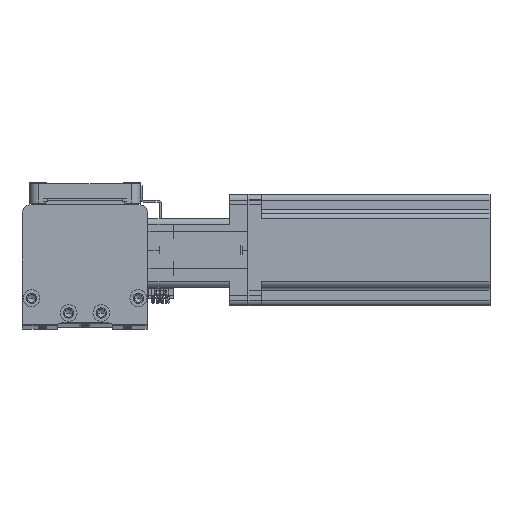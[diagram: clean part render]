
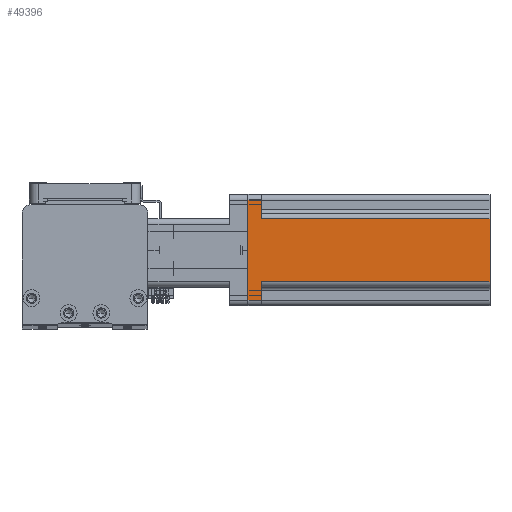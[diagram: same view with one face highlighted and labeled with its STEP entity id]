
A CAD part, top view. The second image highlights one B-rep face of the part: STEP entity #49396.
In plain terms, the highlighted planar face has unit normal (0, 0, 1) as drawn and (1, 0, 0) by its records, which use the part's own axes.
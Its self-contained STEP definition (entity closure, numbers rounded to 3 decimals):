
#404 = CARTESIAN_POINT ( 'NONE',  ( 30., -17., 7.5 ) ) ;
#1085 = EDGE_CURVE ( 'NONE', #20967, #25114, #41527, .T. ) ;
#2206 = FACE_OUTER_BOUND ( 'NONE', #41424, .T. ) ;
#2849 = EDGE_CURVE ( 'NONE', #14496, #20416, #21416, .T. ) ;
#2960 = DIRECTION ( 'NONE',  ( 0., -1., 0. ) ) ;
#3257 = EDGE_CURVE ( 'NONE', #29414, #49012, #4026, .T. ) ;
#3607 = VECTOR ( 'NONE', #2960, 1000. ) ;
#4026 = LINE ( 'NONE', #12351, #14175 ) ;
#4052 = CARTESIAN_POINT ( 'NONE',  ( 30., -27., 7.5 ) ) ;
#4566 = EDGE_CURVE ( 'NONE', #20416, #20967, #44339, .T. ) ;
#5601 = VECTOR ( 'NONE', #7166, 1000. ) ;
#6455 = ORIENTED_EDGE ( 'NONE', *, *, #21777, .F. ) ;
#7166 = DIRECTION ( 'NONE',  ( 0., 1., 0. ) ) ;
#8831 = CARTESIAN_POINT ( 'NONE',  ( 30., -30., 130.7 ) ) ;
#9209 = DIRECTION ( 'NONE',  ( -1., 0., 0. ) ) ;
#10948 = VECTOR ( 'NONE', #26564, 1000. ) ;
#12292 = ORIENTED_EDGE ( 'NONE', *, *, #4566, .T. ) ;
#12351 = CARTESIAN_POINT ( 'NONE',  ( 30., 27., 130.7 ) ) ;
#12913 = ORIENTED_EDGE ( 'NONE', *, *, #33228, .T. ) ;
#13126 = CARTESIAN_POINT ( 'NONE',  ( 30., -27., 0. ) ) ;
#13742 = VECTOR ( 'NONE', #41902, 1000. ) ;
#14175 = VECTOR ( 'NONE', #35290, 1000. ) ;
#14496 = VERTEX_POINT ( 'NONE', #47236 ) ;
#16708 = PLANE ( 'NONE',  #34723 ) ;
#16935 = CARTESIAN_POINT ( 'NONE',  ( 30., -17., 7.5 ) ) ;
#17083 = DIRECTION ( 'NONE',  ( 0., 0., -1. ) ) ;
#17637 = LINE ( 'NONE', #34048, #36839 ) ;
#18407 = CARTESIAN_POINT ( 'NONE',  ( 30., 17., 7.5 ) ) ;
#19731 = EDGE_CURVE ( 'NONE', #25114, #29414, #17637, .T. ) ;
#20381 = ORIENTED_EDGE ( 'NONE', *, *, #3257, .T. ) ;
#20416 = VERTEX_POINT ( 'NONE', #404 ) ;
#20967 = VERTEX_POINT ( 'NONE', #4052 ) ;
#21416 = LINE ( 'NONE', #16935, #40600 ) ;
#21777 = EDGE_CURVE ( 'NONE', #14496, #24541, #45048, .T. ) ;
#24541 = VERTEX_POINT ( 'NONE', #35456 ) ;
#25114 = VERTEX_POINT ( 'NONE', #13126 ) ;
#25117 = LINE ( 'NONE', #49633, #13742 ) ;
#26564 = DIRECTION ( 'NONE',  ( 0., 0., -1. ) ) ;
#27240 = ORIENTED_EDGE ( 'NONE', *, *, #1085, .T. ) ;
#29414 = VERTEX_POINT ( 'NONE', #30667 ) ;
#30667 = CARTESIAN_POINT ( 'NONE',  ( 30., 27., 0. ) ) ;
#31696 = ORIENTED_EDGE ( 'NONE', *, *, #19731, .T. ) ;
#31799 = ORIENTED_EDGE ( 'NONE', *, *, #2849, .T. ) ;
#32099 = CARTESIAN_POINT ( 'NONE',  ( 30., -30., 130.7 ) ) ;
#33228 = EDGE_CURVE ( 'NONE', #38662, #24541, #25117, .T. ) ;
#33932 = CARTESIAN_POINT ( 'NONE',  ( 30., 30., 7.5 ) ) ;
#34048 = CARTESIAN_POINT ( 'NONE',  ( 30., -30., 0. ) ) ;
#34723 = AXIS2_PLACEMENT_3D ( 'NONE', #32099, #9209, #35980 ) ;
#34832 = CARTESIAN_POINT ( 'NONE',  ( 30., 27., 7.5 ) ) ;
#35260 = ORIENTED_EDGE ( 'NONE', *, *, #39255, .F. ) ;
#35290 = DIRECTION ( 'NONE',  ( 0., 0., 1. ) ) ;
#35456 = CARTESIAN_POINT ( 'NONE',  ( 30., 17., 130.7 ) ) ;
#35586 = DIRECTION ( 'NONE',  ( 0., 1., 0. ) ) ;
#35980 = DIRECTION ( 'NONE',  ( 0., 0., 1. ) ) ;
#36839 = VECTOR ( 'NONE', #37928, 1000. ) ;
#37928 = DIRECTION ( 'NONE',  ( 0., 1., 0. ) ) ;
#38662 = VERTEX_POINT ( 'NONE', #18407 ) ;
#39255 = EDGE_CURVE ( 'NONE', #38662, #49012, #46337, .T. ) ;
#40600 = VECTOR ( 'NONE', #17083, 1000. ) ;
#41424 = EDGE_LOOP ( 'NONE', ( #6455, #31799, #12292, #27240, #31696, #20381, #35260, #12913 ) ) ;
#41527 = LINE ( 'NONE', #49525, #10948 ) ;
#41902 = DIRECTION ( 'NONE',  ( 0., 0., 1. ) ) ;
#43855 = VECTOR ( 'NONE', #35586, 1000. ) ;
#44339 = LINE ( 'NONE', #45004, #3607 ) ;
#45004 = CARTESIAN_POINT ( 'NONE',  ( 30., -30., 7.5 ) ) ;
#45048 = LINE ( 'NONE', #8831, #43855 ) ;
#46337 = LINE ( 'NONE', #33932, #5601 ) ;
#47236 = CARTESIAN_POINT ( 'NONE',  ( 30., -17., 130.7 ) ) ;
#49012 = VERTEX_POINT ( 'NONE', #34832 ) ;
#49396 = ADVANCED_FACE ( 'NONE', ( #2206 ), #16708, .F. ) ;
#49525 = CARTESIAN_POINT ( 'NONE',  ( 30., -27., 130.7 ) ) ;
#49633 = CARTESIAN_POINT ( 'NONE',  ( 30., 17., 130.7 ) ) ;
